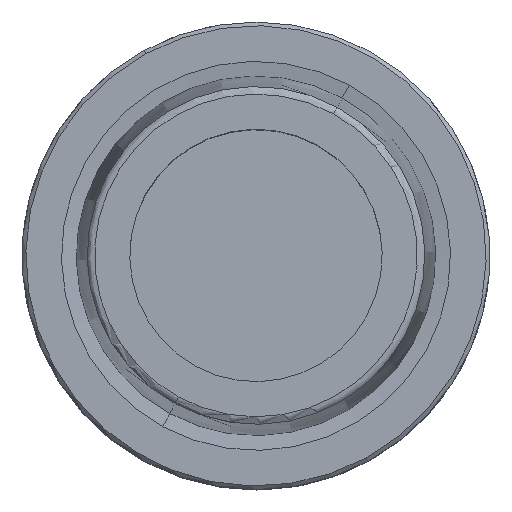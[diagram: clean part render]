
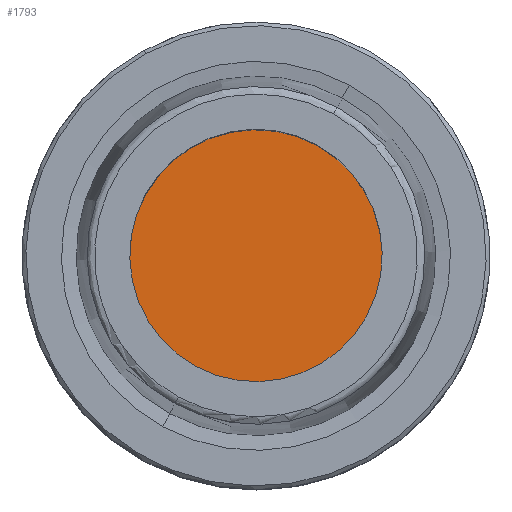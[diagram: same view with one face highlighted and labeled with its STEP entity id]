
A CAD part, top view. The second image highlights one B-rep face of the part: STEP entity #1793.
In plain terms, the highlighted planar face has unit normal (0, 0, 1).
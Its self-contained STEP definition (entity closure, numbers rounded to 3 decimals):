
#1773=AXIS2_PLACEMENT_3D('Plane Axis2P3D',#1770,#1771,#1772) ;
#1777=AXIS2_PLACEMENT_3D('Circle Axis2P3D',#1775,#1776,$) ;
#1786=AXIS2_PLACEMENT_3D('Circle Axis2P3D',#1784,#1785,$) ;
#1770=CARTESIAN_POINT('Axis2P3D Location',(0.,0.,-10.)) ;
#1775=CARTESIAN_POINT('Axis2P3D Location',(0.,0.,-10.)) ;
#1779=CARTESIAN_POINT('Vertex',(-8.15,-14.919,-10.)) ;
#1781=CARTESIAN_POINT('Vertex',(8.15,14.919,-10.)) ;
#1784=CARTESIAN_POINT('Axis2P3D Location',(0.,0.,-10.)) ;
#1771=DIRECTION('Axis2P3D Direction',(0.,0.,1.)) ;
#1772=DIRECTION('Axis2P3D XDirection',(1.,0.,0.)) ;
#1776=DIRECTION('Axis2P3D Direction',(0.,0.,1.)) ;
#1785=DIRECTION('Axis2P3D Direction',(0.,0.,1.)) ;
#1790=ORIENTED_EDGE('',*,*,#1783,.T.) ;
#1791=ORIENTED_EDGE('',*,*,#1788,.T.) ;
#1793=ADVANCED_FACE('NOCUT',(#1792),#1774,.T.) ;
#1778=CIRCLE('generated circle',#1777,17.) ;
#1787=CIRCLE('generated circle',#1786,17.) ;
#1783=EDGE_CURVE('',#1780,#1782,#1778,.T.) ;
#1788=EDGE_CURVE('',#1782,#1780,#1787,.T.) ;
#1789=EDGE_LOOP('',(#1790,#1791)) ;
#1792=FACE_OUTER_BOUND('',#1789,.T.) ;
#1774=PLANE('',#1773) ;
#1780=VERTEX_POINT('',#1779) ;
#1782=VERTEX_POINT('',#1781) ;
